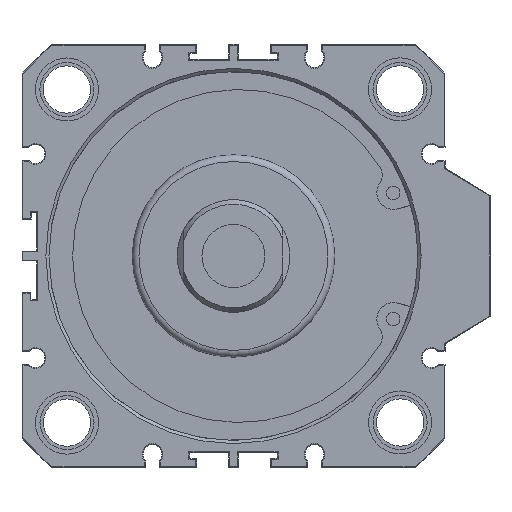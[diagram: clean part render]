
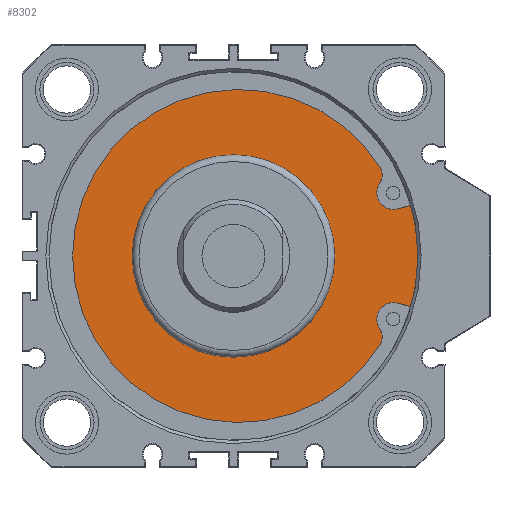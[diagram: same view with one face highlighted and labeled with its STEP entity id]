
A CAD part, front view. The second image highlights one B-rep face of the part: STEP entity #8302.
In plain terms, the highlighted planar face has unit normal (0, -1, 0).
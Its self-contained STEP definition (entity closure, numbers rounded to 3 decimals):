
#225=CIRCLE('',#8823,22.5);
#226=CIRCLE('',#8824,42.75);
#227=CIRCLE('',#8825,3.655);
#228=CIRCLE('',#8826,3.556);
#229=CIRCLE('',#8827,37.);
#230=CIRCLE('',#8828,3.556);
#231=CIRCLE('',#8829,3.655);
#712=LINE('',#11902,#1292);
#713=LINE('',#11914,#1293);
#1292=VECTOR('',#10042,1000.);
#1293=VECTOR('',#10053,1000.);
#2157=ORIENTED_EDGE('',*,*,#3571,.T.);
#2158=ORIENTED_EDGE('',*,*,#3572,.F.);
#2159=ORIENTED_EDGE('',*,*,#3573,.T.);
#2160=ORIENTED_EDGE('',*,*,#3574,.T.);
#2161=ORIENTED_EDGE('',*,*,#3575,.T.);
#2162=ORIENTED_EDGE('',*,*,#3576,.T.);
#2163=ORIENTED_EDGE('',*,*,#3577,.T.);
#2164=ORIENTED_EDGE('',*,*,#3578,.T.);
#2165=ORIENTED_EDGE('',*,*,#3579,.T.);
#3571=EDGE_CURVE('',#4251,#4251,#225,.T.);
#3572=EDGE_CURVE('',#4252,#4253,#226,.T.);
#3573=EDGE_CURVE('',#4252,#4254,#712,.T.);
#3574=EDGE_CURVE('',#4254,#4255,#227,.T.);
#3575=EDGE_CURVE('',#4255,#4256,#228,.T.);
#3576=EDGE_CURVE('',#4256,#4257,#229,.T.);
#3577=EDGE_CURVE('',#4257,#4258,#230,.T.);
#3578=EDGE_CURVE('',#4258,#4259,#231,.T.);
#3579=EDGE_CURVE('',#4259,#4253,#713,.T.);
#4251=VERTEX_POINT('',#11898);
#4252=VERTEX_POINT('',#11900);
#4253=VERTEX_POINT('',#11901);
#4254=VERTEX_POINT('',#11903);
#4255=VERTEX_POINT('',#11905);
#4256=VERTEX_POINT('',#11907);
#4257=VERTEX_POINT('',#11909);
#4258=VERTEX_POINT('',#11911);
#4259=VERTEX_POINT('',#11913);
#4519=EDGE_LOOP('',(#2157));
#4520=EDGE_LOOP('',(#2158,#2159,#2160,#2161,#2162,#2163,#2164,#2165));
#4975=FACE_BOUND('',#4519,.T.);
#4976=FACE_BOUND('',#4520,.T.);
#5328=PLANE('',#8822);
#8302=ADVANCED_FACE('',(#4975,#4976),#5328,.F.);
#8822=AXIS2_PLACEMENT_3D('',#11896,#10036,#10037);
#8823=AXIS2_PLACEMENT_3D('',#11897,#10038,#10039);
#8824=AXIS2_PLACEMENT_3D('',#11899,#10040,#10041);
#8825=AXIS2_PLACEMENT_3D('',#11904,#10043,#10044);
#8826=AXIS2_PLACEMENT_3D('',#11906,#10045,#10046);
#8827=AXIS2_PLACEMENT_3D('',#11908,#10047,#10048);
#8828=AXIS2_PLACEMENT_3D('',#11910,#10049,#10050);
#8829=AXIS2_PLACEMENT_3D('',#11912,#10051,#10052);
#10036=DIRECTION('',(0.,1.,0.));
#10037=DIRECTION('',(-1.,0.,0.));
#10038=DIRECTION('',(0.,1.,0.));
#10039=DIRECTION('',(-1.,0.,0.));
#10040=DIRECTION('',(0.,1.,0.));
#10041=DIRECTION('',(-1.,0.,0.));
#10042=DIRECTION('',(-0.966,0.,-0.259));
#10043=DIRECTION('',(0.,1.,0.));
#10044=DIRECTION('',(1.,0.,0.));
#10045=DIRECTION('',(0.,-1.,0.));
#10046=DIRECTION('',(-1.,0.,0.));
#10047=DIRECTION('',(0.,-1.,0.));
#10048=DIRECTION('',(1.,0.,0.));
#10049=DIRECTION('',(0.,-1.,0.));
#10050=DIRECTION('',(-1.,0.,0.));
#10051=DIRECTION('',(0.,1.,0.));
#10052=DIRECTION('',(1.,0.,0.));
#10053=DIRECTION('',(0.966,0.,-0.259));
#11896=CARTESIAN_POINT('',(0.,5.5,-3.67));
#11897=CARTESIAN_POINT('',(0.,5.5,0.));
#11898=CARTESIAN_POINT('',(-22.5,5.5,0.));
#11899=CARTESIAN_POINT('',(0.,5.5,0.));
#11900=CARTESIAN_POINT('',(41.112,5.5,11.72));
#11901=CARTESIAN_POINT('',(41.112,5.5,-11.72));
#11902=CARTESIAN_POINT('',(41.112,5.5,11.72));
#11903=CARTESIAN_POINT('',(36.445,5.5,10.469));
#11904=CARTESIAN_POINT('',(35.499,5.5,14.));
#11905=CARTESIAN_POINT('',(32.311,5.5,15.788));
#11906=CARTESIAN_POINT('',(29.497,5.5,17.962));
#11907=CARTESIAN_POINT('',(32.729,5.5,19.444));
#11908=CARTESIAN_POINT('',(1.25,5.5,0.));
#11909=CARTESIAN_POINT('',(32.729,5.5,-19.444));
#11910=CARTESIAN_POINT('',(29.497,5.5,-17.962));
#11911=CARTESIAN_POINT('',(32.311,5.5,-15.788));
#11912=CARTESIAN_POINT('',(35.499,5.5,-14.));
#11913=CARTESIAN_POINT('',(36.445,5.5,-10.469));
#11914=CARTESIAN_POINT('',(36.445,5.5,-10.469));
